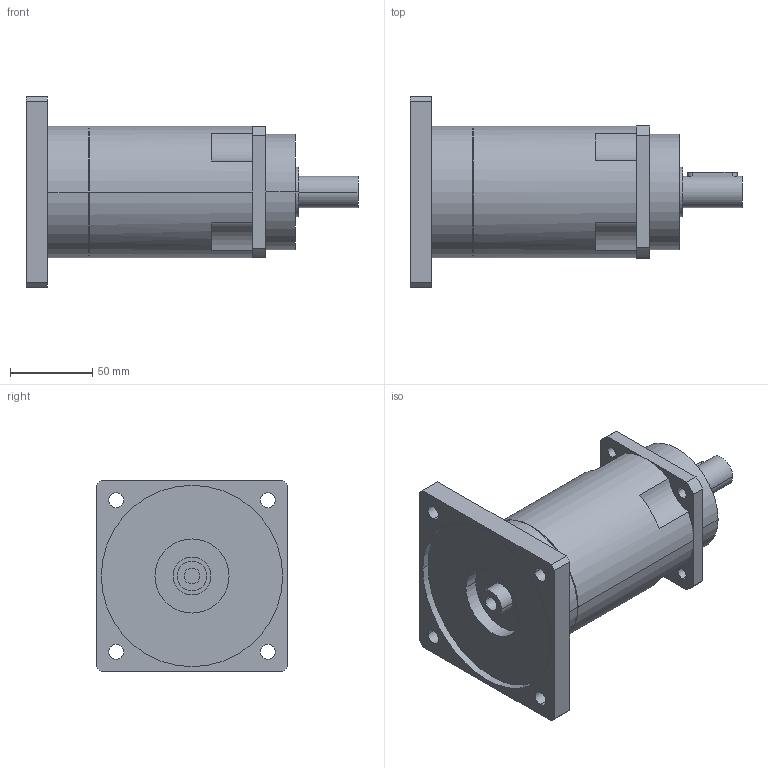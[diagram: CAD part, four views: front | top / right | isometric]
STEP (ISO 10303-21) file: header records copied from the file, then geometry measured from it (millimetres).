
FILE_DESCRIPTION(('CoCreate Modeling STEP Export'),'2;1');
FILE_NAME('GPR100_ig-48-64-80-100-120-144-180-216_19_B5_9.52_P08.stp','2014-08-26T11:57:41',(''),(''),'CoCreate Modeling STEP processor for AP214 (Solid Model)','CoCreate Modeling 16.00C 25-Feb-2009 (C) Parametric Technology GmbH','');
FILE_SCHEMA(('AUTOMOTIVE_DESIGN { 1 0 10303 214 1 1 1 1 }'));
Length unit declared in the file: millimetre
Products named in the file (2): GPR100_ig-48-64-80-100-120-144-180-216_19_B5_9.52_P08
Assembly tree (1 placements, depth 2):
  GPR100_ig-48-64-80-100-120-144-180-216_19_B5_9.52_P08
    GPR100_ig-48-64-80-100-120-144-180-216_19_B5_9.52_P08
Bounding box: 201.4 x 116 x 116 mm (x, y, z)
Volume: 862779.9 mm3; surface area: 82336.5 mm2
Topology: 1 solids, 1 shells, 89 faces, 245 edges, 167 vertices
Faces by surface type: cylinder 52, plane 31, cone 6
Entity records: 2602 total; most frequent: ORIENTED_EDGE 486, CARTESIAN_POINT 472, DIRECTION 386, EDGE_CURVE 243, VERTEX_POINT 167, AXIS2_PLACEMENT_3D 145, EDGE_LOOP 116, VECTOR 96
